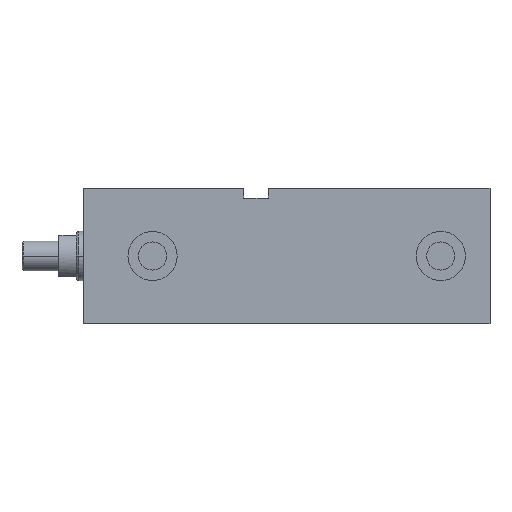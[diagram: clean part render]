
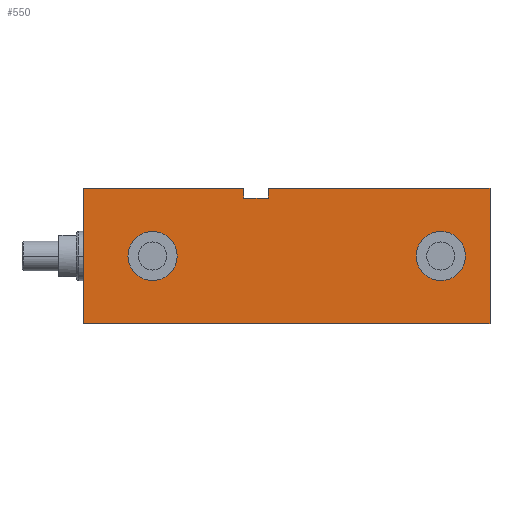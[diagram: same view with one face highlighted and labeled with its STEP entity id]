
A CAD part, left-side view. The second image highlights one B-rep face of the part: STEP entity #550.
In plain terms, the highlighted planar face has unit normal (-1, 0, 0).
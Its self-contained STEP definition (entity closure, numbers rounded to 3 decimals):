
#11 = ORIENTED_EDGE ( 'NONE', *, *, #2165, .T. ) ;
#17 = VECTOR ( 'NONE', #2361, 1000. ) ;
#20 = EDGE_LOOP ( 'NONE', ( #2518, #2516, #1001, #1045, #2627, #2294, #11, #968 ) ) ;
#70 = AXIS2_PLACEMENT_3D ( 'NONE', #1548, #162, #396 ) ;
#118 = EDGE_CURVE ( 'NONE', #919, #811, #1607, .T. ) ;
#141 = EDGE_CURVE ( 'NONE', #869, #2396, #2748, .T. ) ;
#154 = LINE ( 'NONE', #1106, #17 ) ;
#162 = DIRECTION ( 'NONE',  ( -1., 0., 0. ) ) ;
#231 = CARTESIAN_POINT ( 'NONE',  ( -37.5, 137., 0. ) ) ;
#291 = VERTEX_POINT ( 'NONE', #585 ) ;
#293 = EDGE_CURVE ( 'NONE', #811, #291, #1180, .T. ) ;
#319 = VECTOR ( 'NONE', #1513, 1000. ) ;
#337 = ORIENTED_EDGE ( 'NONE', *, *, #393, .F. ) ;
#349 = VERTEX_POINT ( 'NONE', #1539 ) ;
#393 = EDGE_CURVE ( 'NONE', #349, #2879, #1033, .T. ) ;
#396 = DIRECTION ( 'NONE',  ( 0., 0., 1. ) ) ;
#462 = DIRECTION ( 'NONE',  ( 0., 0., 1. ) ) ;
#482 = AXIS2_PLACEMENT_3D ( 'NONE', #2177, #789, #2418 ) ;
#490 = EDGE_CURVE ( 'NONE', #1116, #1900, #1804, .T. ) ;
#506 = VERTEX_POINT ( 'NONE', #2015 ) ;
#511 = FACE_BOUND ( 'NONE', #1964, .T. ) ;
#549 = VECTOR ( 'NONE', #1722, 1000. ) ;
#550 = ADVANCED_FACE ( 'NONE', ( #1145, #2936, #511 ), #2554, .F. ) ;
#558 = AXIS2_PLACEMENT_3D ( 'NONE', #2332, #2875, #2757 ) ;
#585 = CARTESIAN_POINT ( 'NONE',  ( -37.5, 100., 27.5 ) ) ;
#786 = LINE ( 'NONE', #1723, #2566 ) ;
#789 = DIRECTION ( 'NONE',  ( -1., 0., 0. ) ) ;
#811 = VERTEX_POINT ( 'NONE', #1582 ) ;
#869 = VERTEX_POINT ( 'NONE', #1584 ) ;
#895 = DIRECTION ( 'NONE',  ( 0., 0., 1. ) ) ;
#919 = VERTEX_POINT ( 'NONE', #1163 ) ;
#922 = VECTOR ( 'NONE', #1526, 1000. ) ;
#964 = VERTEX_POINT ( 'NONE', #2935 ) ;
#968 = ORIENTED_EDGE ( 'NONE', *, *, #2939, .T. ) ;
#973 = CARTESIAN_POINT ( 'NONE',  ( -37.5, 165., -27.5 ) ) ;
#996 = VECTOR ( 'NONE', #2948, 1000. ) ;
#1001 = ORIENTED_EDGE ( 'NONE', *, *, #2917, .F. ) ;
#1033 = CIRCLE ( 'NONE', #70, 10. ) ;
#1038 = EDGE_CURVE ( 'NONE', #964, #869, #2511, .T. ) ;
#1045 = ORIENTED_EDGE ( 'NONE', *, *, #1299, .T. ) ;
#1106 = CARTESIAN_POINT ( 'NONE',  ( -37.5, 100., 23.5 ) ) ;
#1116 = VERTEX_POINT ( 'NONE', #1179 ) ;
#1131 = VECTOR ( 'NONE', #2673, 1000. ) ;
#1145 = FACE_OUTER_BOUND ( 'NONE', #20, .T. ) ;
#1163 = CARTESIAN_POINT ( 'NONE',  ( -37.5, 165., -27.5 ) ) ;
#1179 = CARTESIAN_POINT ( 'NONE',  ( -37.5, 137., 10. ) ) ;
#1180 = LINE ( 'NONE', #2878, #549 ) ;
#1222 = CARTESIAN_POINT ( 'NONE',  ( -37.5, 137., -10. ) ) ;
#1289 = VECTOR ( 'NONE', #895, 1000. ) ;
#1290 = CARTESIAN_POINT ( 'NONE',  ( -37.5, 0., -27.5 ) ) ;
#1299 = EDGE_CURVE ( 'NONE', #506, #291, #154, .T. ) ;
#1328 = ORIENTED_EDGE ( 'NONE', *, *, #1990, .F. ) ;
#1353 = AXIS2_PLACEMENT_3D ( 'NONE', #2535, #2524, #2765 ) ;
#1513 = DIRECTION ( 'NONE',  ( 0., -1., 0. ) ) ;
#1526 = DIRECTION ( 'NONE',  ( 0., -1., 0. ) ) ;
#1539 = CARTESIAN_POINT ( 'NONE',  ( -37.5, 20., -10. ) ) ;
#1548 = CARTESIAN_POINT ( 'NONE',  ( -37.5, 20., 0. ) ) ;
#1582 = CARTESIAN_POINT ( 'NONE',  ( -37.5, 165., 27.5 ) ) ;
#1584 = CARTESIAN_POINT ( 'NONE',  ( -37.5, 90., 27.5 ) ) ;
#1607 = LINE ( 'NONE', #973, #996 ) ;
#1722 = DIRECTION ( 'NONE',  ( 0., -1., 0. ) ) ;
#1723 = CARTESIAN_POINT ( 'NONE',  ( -37.5, 0., -27.5 ) ) ;
#1750 = ORIENTED_EDGE ( 'NONE', *, *, #490, .F. ) ;
#1804 = CIRCLE ( 'NONE', #558, 10. ) ;
#1825 = CIRCLE ( 'NONE', #2488, 10. ) ;
#1832 = DIRECTION ( 'NONE',  ( -1., 0., 0. ) ) ;
#1876 = ORIENTED_EDGE ( 'NONE', *, *, #2347, .F. ) ;
#1900 = VERTEX_POINT ( 'NONE', #1222 ) ;
#1912 = CARTESIAN_POINT ( 'NONE',  ( -37.5, 65., 27.5 ) ) ;
#1964 = EDGE_LOOP ( 'NONE', ( #1750, #1876 ) ) ;
#1990 = EDGE_CURVE ( 'NONE', #2879, #349, #2019, .T. ) ;
#2015 = CARTESIAN_POINT ( 'NONE',  ( -37.5, 100., 23.5 ) ) ;
#2019 = CIRCLE ( 'NONE', #482, 10. ) ;
#2080 = LINE ( 'NONE', #2861, #319 ) ;
#2134 = VERTEX_POINT ( 'NONE', #1290 ) ;
#2165 = EDGE_CURVE ( 'NONE', #919, #2134, #2865, .T. ) ;
#2177 = CARTESIAN_POINT ( 'NONE',  ( -37.5, 20., 0. ) ) ;
#2261 = EDGE_LOOP ( 'NONE', ( #1328, #337 ) ) ;
#2294 = ORIENTED_EDGE ( 'NONE', *, *, #118, .F. ) ;
#2332 = CARTESIAN_POINT ( 'NONE',  ( -37.5, 137., 0. ) ) ;
#2347 = EDGE_CURVE ( 'NONE', #1900, #1116, #1825, .T. ) ;
#2361 = DIRECTION ( 'NONE',  ( 0., 0., 1. ) ) ;
#2396 = VERTEX_POINT ( 'NONE', #2551 ) ;
#2418 = DIRECTION ( 'NONE',  ( 0., 0., 1. ) ) ;
#2456 = CARTESIAN_POINT ( 'NONE',  ( -37.5, 65., -27.5 ) ) ;
#2488 = AXIS2_PLACEMENT_3D ( 'NONE', #231, #1832, #462 ) ;
#2497 = CARTESIAN_POINT ( 'NONE',  ( -37.5, 90., 23.5 ) ) ;
#2511 = LINE ( 'NONE', #2497, #1289 ) ;
#2516 = ORIENTED_EDGE ( 'NONE', *, *, #1038, .F. ) ;
#2518 = ORIENTED_EDGE ( 'NONE', *, *, #141, .F. ) ;
#2524 = DIRECTION ( 'NONE',  ( 1., 0., 0. ) ) ;
#2535 = CARTESIAN_POINT ( 'NONE',  ( -37.5, 65., -27.5 ) ) ;
#2551 = CARTESIAN_POINT ( 'NONE',  ( -37.5, 0., 27.5 ) ) ;
#2554 = PLANE ( 'NONE',  #1353 ) ;
#2566 = VECTOR ( 'NONE', #2670, 1000. ) ;
#2627 = ORIENTED_EDGE ( 'NONE', *, *, #293, .F. ) ;
#2643 = CARTESIAN_POINT ( 'NONE',  ( -37.5, 20., 10. ) ) ;
#2670 = DIRECTION ( 'NONE',  ( 0., 0., 1. ) ) ;
#2673 = DIRECTION ( 'NONE',  ( 0., -1., 0. ) ) ;
#2748 = LINE ( 'NONE', #1912, #922 ) ;
#2757 = DIRECTION ( 'NONE',  ( 0., 0., 1. ) ) ;
#2765 = DIRECTION ( 'NONE',  ( 0., 0., -1. ) ) ;
#2861 = CARTESIAN_POINT ( 'NONE',  ( -37.5, 100., 23.5 ) ) ;
#2865 = LINE ( 'NONE', #2456, #1131 ) ;
#2875 = DIRECTION ( 'NONE',  ( -1., 0., 0. ) ) ;
#2878 = CARTESIAN_POINT ( 'NONE',  ( -37.5, 65., 27.5 ) ) ;
#2879 = VERTEX_POINT ( 'NONE', #2643 ) ;
#2917 = EDGE_CURVE ( 'NONE', #506, #964, #2080, .T. ) ;
#2935 = CARTESIAN_POINT ( 'NONE',  ( -37.5, 90., 23.5 ) ) ;
#2936 = FACE_BOUND ( 'NONE', #2261, .T. ) ;
#2939 = EDGE_CURVE ( 'NONE', #2134, #2396, #786, .T. ) ;
#2948 = DIRECTION ( 'NONE',  ( 0., 0., 1. ) ) ;
